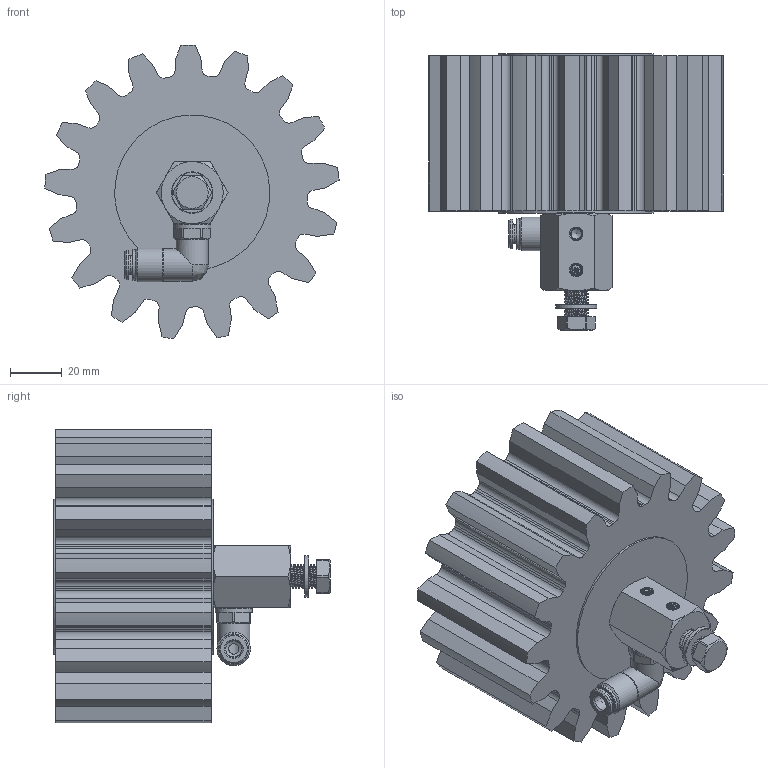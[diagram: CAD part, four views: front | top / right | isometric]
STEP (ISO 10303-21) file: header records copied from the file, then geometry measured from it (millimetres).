
FILE_DESCRIPTION (( 'STEP AP214' ), '1' );
FILE_NAME ('012_13_06_60_17BZ.STEP', '2026-04-08T10:29:23', ( '' ), ( '' ), 'SwSTEP 2.0', 'SolidWorks 2022', '' );
FILE_SCHEMA (( 'AUTOMOTIVE_DESIGN' ));
Length unit declared in the file: millimetre
Products named in the file (13): RH202242; H202242_HDS022_6_M10X1_08.05.17(1); 12012_06_01_Scheibe-CRS-VA_60.SLDASM; RIVOLUZIONE_0_2; 012_13_06_60_17BZ; 012_06_Senkschraube; Schmierzahnrad_06_60_17G; DR6-C_HDX_25.07.16_1; U_Scheibe_8,4; Schraube_M8_20; OR 7.2X1.9_1; Scheibe_hinten_winklige Achse_groß; 012_13b_02_winklige_Achse_M10_1
Assembly tree (12 placements, depth 3):
  012_13_06_60_17BZ
    012_13b_02_winklige_Achse_M10_1
    Schraube_M8_20
    U_Scheibe_8,4
    H202242_HDS022_6_M10X1_08.05.17(1)
      OR 7.2X1.9_1
      RH202242
      DR6-C_HDX_25.07.16_1
      RIVOLUZIONE_0_2
    12012_06_01_Scheibe-CRS-VA_60.SLDASM
    Scheibe_hinten_winklige Achse_groß
    012_06_Senkschraube
    Schmierzahnrad_06_60_17G
Bounding box: 113.77 x 106.9 x 113.55 mm (x, y, z)
Volume: 516011.9 mm3; surface area: 75782.9 mm2
Topology: 11 solids, 11 shells, 729 faces, 1985 edges, 1315 vertices
Faces by surface type: plane 379, bspline 184, cylinder 106, cone 57, torus 3
Full cylindrical faces by diameter (mm): 4 x3, 5.5 x1, 6 x1, 6.2 x1, 6.3 x1, 6.5 x1, 7.2 x1, 8.4 x1, 8.5 x1, 9 x10, 9.9 x1, 10 x2, 10.1 x2, 10.3 x1, 11.5 x1, 11.7 x1, 12.5 x2, 13 x1, 14.5 x1, 16 x1, 60 x2
Entity records: 48167 total; most frequent: CARTESIAN_POINT 30642, ORIENTED_EDGE 3668, DIRECTION 2683, EDGE_CURVE 1834, VERTEX_POINT 1249, LINE 1079, VECTOR 1079, EDGE_LOOP 851
